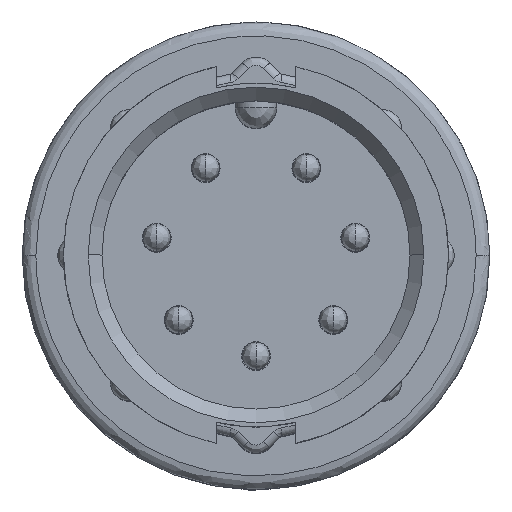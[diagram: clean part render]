
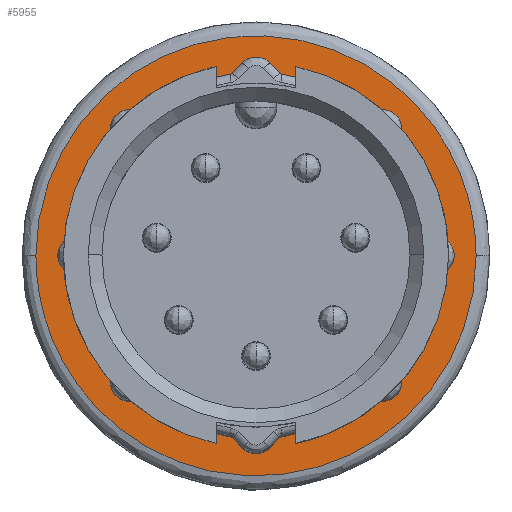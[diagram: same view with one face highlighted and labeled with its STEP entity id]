
A CAD part, top view. The second image highlights one B-rep face of the part: STEP entity #5955.
In plain terms, the highlighted planar face has unit normal (0, 0, 1).
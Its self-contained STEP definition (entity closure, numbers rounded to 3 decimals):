
#638 = CARTESIAN_POINT ( 'NONE',  ( -1.7, 6.332, -17.9 ) ) ;
#752 = CARTESIAN_POINT ( 'NONE',  ( 8., -16., -17.9 ) ) ;
#1482 = CARTESIAN_POINT ( 'NONE',  ( 1.699, 6.332, -17.9 ) ) ;
#1654 = CARTESIAN_POINT ( 'NONE',  ( 6.5, 0.427, -17.9 ) ) ;
#1987 = CARTESIAN_POINT ( 'NONE',  ( 3.275, 5.679, -17.9 ) ) ;
#3184 = DIRECTION ( 'NONE',  ( 1., 0., 0. ) ) ;
#3387 = CARTESIAN_POINT ( 'NONE',  ( -0.853, 6.5, -17.9 ) ) ;
#3661 = CARTESIAN_POINT ( 'NONE',  ( -6.5, 0., -17.9 ) ) ;
#3755 = CARTESIAN_POINT ( 'NONE',  ( 8., 16., -17.9 ) ) ;
#3838 = CARTESIAN_POINT ( 'NONE',  ( -5.679, -3.275, -17.9 ) ) ;
#3999 = CARTESIAN_POINT ( 'NONE',  ( 3.275, -5.679, -17.9 ) ) ;
#4343 = CARTESIAN_POINT ( 'NONE',  ( 6.5, -0.427, -17.9 ) ) ;
#4434 = EDGE_CURVE ( 'NONE', #26334, #25389, #4822, .T. ) ;
#4822 = B_SPLINE_CURVE_WITH_KNOTS ( 'NONE', 3,
 ( #8914, #30038, #6320, #32288, #16170, #27431, #26737, #10988, #16341, #638, #3387, #13919, #1482, #1987, #22742, #33292, #6489, #25333, #6657, #9585, #1654, #17188 ),
 .UNSPECIFIED., .F., .F.,
 ( 4, 2, 2, 2, 2, 2, 2, 2, 2, 2, 4 ),
 ( 0., 0.063, 0.125, 0.25, 0.375, 0.5, 0.625, 0.75, 0.875, 0.938, 1. ),
 .UNSPECIFIED. ) ;
#5955 = ADVANCED_FACE ( 'NONE', ( #11122, #34164 ), #26874, .T. ) ;
#6320 = CARTESIAN_POINT ( 'NONE',  ( -6.458, 0.85, -17.9 ) ) ;
#6397 = VERTEX_POINT ( 'NONE', #16743 ) ;
#6426 = CARTESIAN_POINT ( 'NONE',  ( 6.458, -0.85, -17.9 ) ) ;
#6489 = CARTESIAN_POINT ( 'NONE',  ( 5.679, 3.275, -17.9 ) ) ;
#6657 = CARTESIAN_POINT ( 'NONE',  ( 6.292, 1.686, -17.9 ) ) ;
#7109 = B_SPLINE_CURVE_WITH_KNOTS ( 'NONE', 3,
 ( #22336, #4343, #6426, #22512, #11431, #19572, #17135, #16799, #3999, #24597, #30146, #16970, #27373, #9185, #27548, #14521, #3838, #27882, #14365, #11768, #22000, #3661 ),
 .UNSPECIFIED., .F., .F.,
 ( 4, 2, 2, 2, 2, 2, 2, 2, 2, 2, 4 ),
 ( 0., 0.062, 0.125, 0.25, 0.375, 0.5, 0.625, 0.75, 0.875, 0.937, 1. ),
 .UNSPECIFIED. ) ;
#7939 = EDGE_LOOP ( 'NONE', ( #23504, #32247 ) ) ;
#8016 = CARTESIAN_POINT ( 'NONE',  ( -8.32, -8.322, -17.9 ) ) ;
#8914 = CARTESIAN_POINT ( 'NONE',  ( -6.5, 0., -17.9 ) ) ;
#9185 = CARTESIAN_POINT ( 'NONE',  ( -3.275, -5.679, -17.9 ) ) ;
#9585 = CARTESIAN_POINT ( 'NONE',  ( 6.458, 0.85, -17.9 ) ) ;
#10699 =( BOUNDED_CURVE ( )  B_SPLINE_CURVE ( 3, ( #10936, #752, #29305, #29987 ),
 .UNSPECIFIED., .F., .F. ) 
 B_SPLINE_CURVE_WITH_KNOTS ( ( 4, 4 ),
 ( 0., 1. ),
 .UNSPECIFIED. ) 
 CURVE ( )  GEOMETRIC_REPRESENTATION_ITEM ( )  RATIONAL_B_SPLINE_CURVE ( ( 1., 0.333, 0.333, 1. ) ) 
 REPRESENTATION_ITEM ( '' )  );
#10936 = CARTESIAN_POINT ( 'NONE',  ( 8., 0., -17.9 ) ) ;
#10988 = CARTESIAN_POINT ( 'NONE',  ( -3.993, 5.199, -17.9 ) ) ;
#11122 = FACE_BOUND ( 'NONE', #7939, .T. ) ;
#11431 = CARTESIAN_POINT ( 'NONE',  ( 6.168, -2.093, -17.9 ) ) ;
#11596 = AXIS2_PLACEMENT_3D ( 'NONE', #8016, #29151, #3184 ) ;
#11768 = CARTESIAN_POINT ( 'NONE',  ( -6.458, -0.85, -17.9 ) ) ;
#12638 = EDGE_CURVE ( 'NONE', #6397, #30975, #16358, .T. ) ;
#13919 = CARTESIAN_POINT ( 'NONE',  ( 0.853, 6.5, -17.9 ) ) ;
#14365 = CARTESIAN_POINT ( 'NONE',  ( -6.292, -1.686, -17.9 ) ) ;
#14521 = CARTESIAN_POINT ( 'NONE',  ( -5.199, -3.993, -17.9 ) ) ;
#14780 = CARTESIAN_POINT ( 'NONE',  ( -8., 16., -17.9 ) ) ;
#16170 = CARTESIAN_POINT ( 'NONE',  ( -6.168, 2.093, -17.9 ) ) ;
#16341 = CARTESIAN_POINT ( 'NONE',  ( -3.275, 5.679, -17.9 ) ) ;
#16358 =( BOUNDED_CURVE ( )  B_SPLINE_CURVE ( 3, ( #30066, #14780, #3755, #22598 ),
 .UNSPECIFIED., .F., .F. ) 
 B_SPLINE_CURVE_WITH_KNOTS ( ( 4, 4 ),
 ( 0., 1. ),
 .UNSPECIFIED. ) 
 CURVE ( )  GEOMETRIC_REPRESENTATION_ITEM ( )  RATIONAL_B_SPLINE_CURVE ( ( 1., 0.333, 0.333, 1. ) ) 
 REPRESENTATION_ITEM ( '' )  );
#16462 = CARTESIAN_POINT ( 'NONE',  ( 6.5, 0., -17.9 ) ) ;
#16743 = CARTESIAN_POINT ( 'NONE',  ( -8., 0., -17.9 ) ) ;
#16799 = CARTESIAN_POINT ( 'NONE',  ( 3.993, -5.199, -17.9 ) ) ;
#16970 = CARTESIAN_POINT ( 'NONE',  ( -0.853, -6.5, -17.9 ) ) ;
#17135 = CARTESIAN_POINT ( 'NONE',  ( 5.199, -3.993, -17.9 ) ) ;
#17188 = CARTESIAN_POINT ( 'NONE',  ( 6.5, 0., -17.9 ) ) ;
#17321 = CARTESIAN_POINT ( 'NONE',  ( 8., 0., -17.9 ) ) ;
#17402 = EDGE_LOOP ( 'NONE', ( #23426, #33310 ) ) ;
#17963 = CARTESIAN_POINT ( 'NONE',  ( -6.5, 0., -17.9 ) ) ;
#19572 = CARTESIAN_POINT ( 'NONE',  ( 5.679, -3.275, -17.9 ) ) ;
#22000 = CARTESIAN_POINT ( 'NONE',  ( -6.5, -0.427, -17.9 ) ) ;
#22336 = CARTESIAN_POINT ( 'NONE',  ( 6.5, 0., -17.9 ) ) ;
#22512 = CARTESIAN_POINT ( 'NONE',  ( 6.292, -1.686, -17.9 ) ) ;
#22598 = CARTESIAN_POINT ( 'NONE',  ( 8., 0., -17.9 ) ) ;
#22742 = CARTESIAN_POINT ( 'NONE',  ( 3.993, 5.199, -17.9 ) ) ;
#23426 = ORIENTED_EDGE ( 'NONE', *, *, #33589, .F. ) ;
#23504 = ORIENTED_EDGE ( 'NONE', *, *, #4434, .T. ) ;
#24597 = CARTESIAN_POINT ( 'NONE',  ( 1.7, -6.332, -17.9 ) ) ;
#25333 = CARTESIAN_POINT ( 'NONE',  ( 6.168, 2.093, -17.9 ) ) ;
#25389 = VERTEX_POINT ( 'NONE', #16462 ) ;
#26334 = VERTEX_POINT ( 'NONE', #17963 ) ;
#26737 = CARTESIAN_POINT ( 'NONE',  ( -5.199, 3.993, -17.9 ) ) ;
#26874 = PLANE ( 'NONE',  #11596 ) ;
#27373 = CARTESIAN_POINT ( 'NONE',  ( -1.699, -6.332, -17.9 ) ) ;
#27431 = CARTESIAN_POINT ( 'NONE',  ( -5.679, 3.275, -17.9 ) ) ;
#27548 = CARTESIAN_POINT ( 'NONE',  ( -3.993, -5.199, -17.9 ) ) ;
#27882 = CARTESIAN_POINT ( 'NONE',  ( -6.168, -2.093, -17.9 ) ) ;
#29151 = DIRECTION ( 'NONE',  ( 0., 0., 1. ) ) ;
#29305 = CARTESIAN_POINT ( 'NONE',  ( -8., -16., -17.9 ) ) ;
#29987 = CARTESIAN_POINT ( 'NONE',  ( -8., 0., -17.9 ) ) ;
#30038 = CARTESIAN_POINT ( 'NONE',  ( -6.5, 0.427, -17.9 ) ) ;
#30066 = CARTESIAN_POINT ( 'NONE',  ( -8., 0., -17.9 ) ) ;
#30146 = CARTESIAN_POINT ( 'NONE',  ( 0.853, -6.5, -17.9 ) ) ;
#30975 = VERTEX_POINT ( 'NONE', #17321 ) ;
#32247 = ORIENTED_EDGE ( 'NONE', *, *, #32479, .T. ) ;
#32288 = CARTESIAN_POINT ( 'NONE',  ( -6.292, 1.686, -17.9 ) ) ;
#32479 = EDGE_CURVE ( 'NONE', #25389, #26334, #7109, .T. ) ;
#33292 = CARTESIAN_POINT ( 'NONE',  ( 5.199, 3.993, -17.9 ) ) ;
#33310 = ORIENTED_EDGE ( 'NONE', *, *, #12638, .F. ) ;
#33589 = EDGE_CURVE ( 'NONE', #30975, #6397, #10699, .T. ) ;
#34164 = FACE_OUTER_BOUND ( 'NONE', #17402, .T. ) ;
